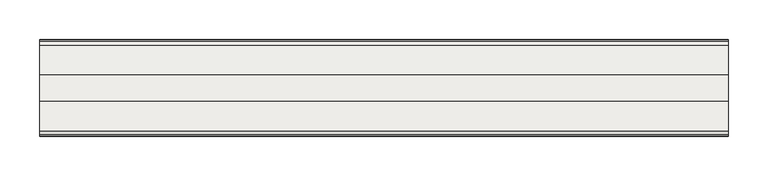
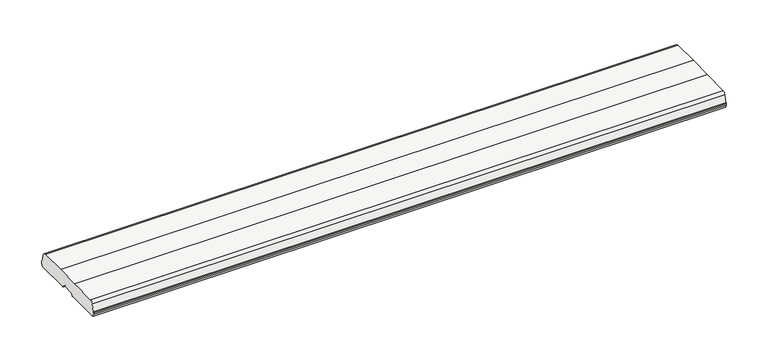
"""IFC4 building model written with IfcOpenShell, lengths in millimetres: slab geometry, ROSA GRES_121 CM : Pieza 121 CM_Tresor_Java_Anti-Slip."""

from ifc_helpers import new_model, si_unit, point, frame, frame_2d, origin, place, context, project, spatial, polyline, circle_curve, trimmed, segment, composite_curve, outline, extrude, source, transform, mapped, element, save


def slab_2c4ff7e9(model_context):
    return source(origin(), model_context, "Body", "SweptSolid", [
        extrude(outline(composite_curve([segment(polyline([(122.780004, -4.4288005), (125.2726851, -14.1746663)]), True, "CONTINUOUS"), segment(trimmed(circle_curve(frame_2d((120.5, -15.6651284)), 5.0), [point((125.2726851, -14.1746663))], [point((125.5, -15.6651284))], False, "CARTESIAN"), True, "CONTINUOUS"), segment(polyline([(125.5, -15.6651284), (125.5, -17.9933959)]), True, "CONTINUOUS"), segment(trimmed(circle_curve(frame_2d((120.4972512, -17.9933959)), 5.0027488), [point((125.5, -17.9933959))], [point((123.5971345, -21.92))], False, "CARTESIAN"), True, "CONTINUOUS"), segment(polyline([(123.5971345, -21.92), (76.1600446, -21.92)]), True, "CONTINUOUS"), segment(trimmed(circle_curve(frame_2d((76.1600446, -19.92)), 2.0), [point((76.1600446, -21.92))], [point((74.4339023, -20.9301647))], False, "CARTESIAN"), True, "CONTINUOUS"), segment(trimmed(circle_curve(frame_2d((70.1185466, -23.4555766)), 5.0), [point((74.4339023, -20.9301647))], [point((70.1185466, -18.4555766))], True, "CARTESIAN"), True, "CONTINUOUS"), segment(polyline([(70.1185466, -18.4555766), (57.8814534, -18.4555766)]), True, "CONTINUOUS"), segment(trimmed(circle_curve(frame_2d((57.8814534, -23.4555766)), 5.0), [point((57.8814534, -18.4555766))], [point((53.5660977, -20.9301647))], True, "CARTESIAN"), True, "CONTINUOUS"), segment(trimmed(circle_curve(frame_2d((51.8399554, -19.92)), 2.0), [point((53.5660977, -20.9301647))], [point((51.8399554, -21.92))], False, "CARTESIAN"), True, "CONTINUOUS"), segment(polyline([(51.8399554, -21.92), (4.4028655, -21.92)]), True, "CONTINUOUS"), segment(trimmed(circle_curve(frame_2d((7.5027488, -17.9933959)), 5.0027488), [point((4.4028655, -21.92))], [point((2.5, -17.9933959))], False, "CARTESIAN"), True, "CONTINUOUS"), segment(polyline([(2.5, -17.9933959), (2.5, -15.6651284)]), True, "CONTINUOUS"), segment(trimmed(circle_curve(frame_2d((7.5, -15.6651284)), 5.0), [point((2.5, -15.6651284))], [point((2.7273149, -14.1746663))], False, "CARTESIAN"), True, "CONTINUOUS"), segment(polyline([(2.7273149, -14.1746663), (5.219996, -4.4288005)]), True, "CONTINUOUS"), segment(trimmed(circle_curve(frame_2d((9.9926811, -5.9192626)), 5.0), [point((5.219996, -4.4288005))], [point((9.9075888, -0.9199867))], False, "CARTESIAN"), True, "CONTINUOUS"), segment(polyline([(9.9075888, -0.9199867), (46.9815344, -0.2889537)]), True, "CONTINUOUS"), segment(trimmed(circle_curve(frame_2d((64.0, -1000.1441291)), 1000.0), [point((46.9815344, -0.2889537))], [point((81.0184656, -0.2889537))], False, "CARTESIAN"), True, "CONTINUOUS"), segment(polyline([(81.0184656, -0.2889537), (118.0924112, -0.9199867)]), True, "CONTINUOUS"), segment(trimmed(circle_curve(frame_2d((118.0073189, -5.9192626)), 5.0), [point((118.0924112, -0.9199867))], [point((122.780004, -4.4288005))], False, "CARTESIAN"), True, "CONTINUOUS")], self_intersect=False)), frame((0.0, 0.0, 0.0), z_axis=(1.0, 0.0, 0.0), x_axis=(0.0, 1.0, 0.0)), (0.0, 0.0, 1.0), 870.7790153),
    ])


if __name__ == "__main__":
    model = new_model("IFC4")
    model_context = context("Model", 3, world=origin())
    ifc_project = project(units=[si_unit("LENGTHUNIT", "METRE", prefix="MILLI")], contexts=[model_context])
    site = spatial("IfcSite", under=ifc_project)
    building = spatial("IfcBuilding", under=site)
    placement = place(None, origin())
    slab_shape = slab_2c4ff7e9(model_context)
    element("IfcSlab", 1, ObjectType="ROSA GRES_121 CM : Pieza 121 CM_Tresor_Java_Anti-Slip", at=placement, inside=building, context=model_context, shape_type="MappedRepresentation", body=[
        mapped(slab_shape, transform((0.0, 0.0, 0.0), x_axis=(1.0, 0.0, 0.0), y_axis=(0.0, 1.0, 0.0), z_axis=(0.0, 0.0, 1.0))),
    ])
    save(model, "model.ifc")
